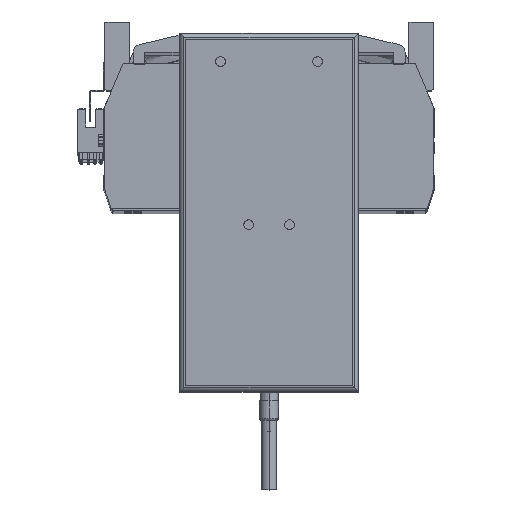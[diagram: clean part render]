
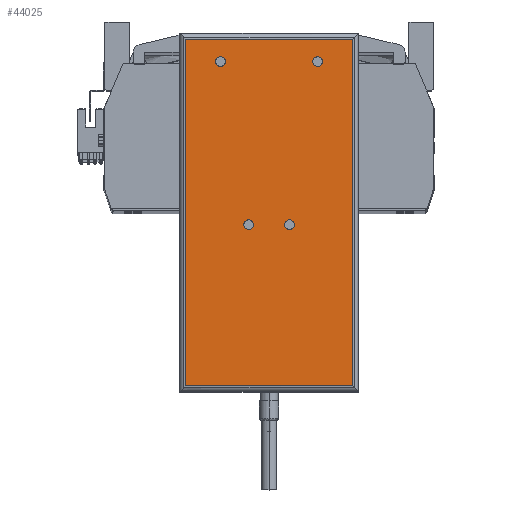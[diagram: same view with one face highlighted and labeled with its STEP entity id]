
A CAD part, top view. The second image highlights one B-rep face of the part: STEP entity #44025.
In plain terms, the highlighted planar face has unit normal (0, 0, 1) as drawn and (0, 0, -1) by its records, which use the part's own axes.
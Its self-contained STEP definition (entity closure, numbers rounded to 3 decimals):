
#40 = CIRCLE ( 'NONE', #38480, 2.5 ) ;
#255 = DIRECTION ( 'NONE',  ( 1., 0., 0. ) ) ;
#575 = EDGE_CURVE ( 'NONE', #43077, #51194, #7677, .T. ) ;
#1904 = FACE_BOUND ( 'NONE', #36241, .T. ) ;
#2032 = ORIENTED_EDGE ( 'NONE', *, *, #44075, .T. ) ;
#2505 = AXIS2_PLACEMENT_3D ( 'NONE', #12782, #40829, #16765 ) ;
#2663 = VECTOR ( 'NONE', #255, 1000. ) ;
#2954 = DIRECTION ( 'NONE',  ( -1., 0., 0. ) ) ;
#3177 = VECTOR ( 'NONE', #21864, 1000. ) ;
#3210 = DIRECTION ( 'NONE',  ( 0., 0., -1. ) ) ;
#3648 = VERTEX_POINT ( 'NONE', #48709 ) ;
#4576 = DIRECTION ( 'NONE',  ( 0., 0., -1. ) ) ;
#5337 = AXIS2_PLACEMENT_3D ( 'NONE', #22385, #50429, #33803 ) ;
#5673 = AXIS2_PLACEMENT_3D ( 'NONE', #44372, #4576, #32562 ) ;
#5804 = VERTEX_POINT ( 'NONE', #28014 ) ;
#6254 = CIRCLE ( 'NONE', #43341, 2.5 ) ;
#7130 = EDGE_CURVE ( 'NONE', #5804, #8420, #27706, .T. ) ;
#7257 = ORIENTED_EDGE ( 'NONE', *, *, #32262, .F. ) ;
#7677 = LINE ( 'NONE', #36488, #2663 ) ;
#8175 = CIRCLE ( 'NONE', #26310, 2.5 ) ;
#8420 = VERTEX_POINT ( 'NONE', #18188 ) ;
#9486 = VERTEX_POINT ( 'NONE', #21082 ) ;
#10051 = FACE_BOUND ( 'NONE', #40913, .T. ) ;
#10151 = AXIS2_PLACEMENT_3D ( 'NONE', #38902, #34836, #11022 ) ;
#10356 = EDGE_LOOP ( 'NONE', ( #22635, #30204 ) ) ;
#11022 = DIRECTION ( 'NONE',  ( -1., 0., 0. ) ) ;
#11439 = EDGE_CURVE ( 'NONE', #38278, #9486, #14255, .T. ) ;
#11762 = DIRECTION ( 'NONE',  ( 0., 0., -1. ) ) ;
#12663 = EDGE_CURVE ( 'NONE', #8420, #43077, #51738, .T. ) ;
#12717 = CARTESIAN_POINT ( 'NONE',  ( -25., 77.75, 0. ) ) ;
#12782 = CARTESIAN_POINT ( 'NONE',  ( 25., 77.75, 0. ) ) ;
#13066 = DIRECTION ( 'NONE',  ( -1., 0., 0. ) ) ;
#14255 = CIRCLE ( 'NONE', #5673, 2.5 ) ;
#14991 = DIRECTION ( 'NONE',  ( 0., 0., -1. ) ) ;
#15456 = EDGE_LOOP ( 'NONE', ( #2032, #47171, #37393, #19113 ) ) ;
#16297 = FACE_BOUND ( 'NONE', #46111, .T. ) ;
#16765 = DIRECTION ( 'NONE',  ( -1., 0., 0. ) ) ;
#16853 = VERTEX_POINT ( 'NONE', #26367 ) ;
#17049 = VECTOR ( 'NONE', #2954, 1000. ) ;
#17554 = FACE_BOUND ( 'NONE', #10356, .T. ) ;
#18188 = CARTESIAN_POINT ( 'NONE',  ( -43., -89.25, 0. ) ) ;
#18640 = CARTESIAN_POINT ( 'NONE',  ( -27.5, 77.75, 0. ) ) ;
#18991 = EDGE_CURVE ( 'NONE', #37488, #16853, #8175, .T. ) ;
#19113 = ORIENTED_EDGE ( 'NONE', *, *, #575, .T. ) ;
#20596 = DIRECTION ( 'NONE',  ( 0., 0., -1. ) ) ;
#21082 = CARTESIAN_POINT ( 'NONE',  ( 13., -6.25, 0. ) ) ;
#21864 = DIRECTION ( 'NONE',  ( 0., -1., 0. ) ) ;
#22385 = CARTESIAN_POINT ( 'NONE',  ( -46., -92.25, 0. ) ) ;
#22635 = ORIENTED_EDGE ( 'NONE', *, *, #11439, .F. ) ;
#23544 = CARTESIAN_POINT ( 'NONE',  ( -46., -89.25, 0. ) ) ;
#23890 = EDGE_CURVE ( 'NONE', #9486, #38278, #39319, .T. ) ;
#25567 = EDGE_CURVE ( 'NONE', #45864, #29047, #51031, .T. ) ;
#26067 = PLANE ( 'NONE',  #5337 ) ;
#26310 = AXIS2_PLACEMENT_3D ( 'NONE', #44653, #20596, #48681 ) ;
#26367 = CARTESIAN_POINT ( 'NONE',  ( -8., -6.25, 0. ) ) ;
#26463 = AXIS2_PLACEMENT_3D ( 'NONE', #39484, #11762, #39814 ) ;
#27325 = VECTOR ( 'NONE', #39048, 1000. ) ;
#27357 = CARTESIAN_POINT ( 'NONE',  ( -43., 89.25, 0. ) ) ;
#27706 = LINE ( 'NONE', #23544, #17049 ) ;
#28014 = CARTESIAN_POINT ( 'NONE',  ( 43., -89.25, 0. ) ) ;
#28204 = FACE_OUTER_BOUND ( 'NONE', #15456, .T. ) ;
#29047 = VERTEX_POINT ( 'NONE', #45300 ) ;
#29713 = CARTESIAN_POINT ( 'NONE',  ( -43., -92.25, 0. ) ) ;
#30204 = ORIENTED_EDGE ( 'NONE', *, *, #23890, .F. ) ;
#32262 = EDGE_CURVE ( 'NONE', #16853, #37488, #33172, .T. ) ;
#32562 = DIRECTION ( 'NONE',  ( -1., 0., 0. ) ) ;
#33172 = CIRCLE ( 'NONE', #26463, 2.5 ) ;
#33716 = VERTEX_POINT ( 'NONE', #48690 ) ;
#33803 = DIRECTION ( 'NONE',  ( 1., 0., 0. ) ) ;
#34836 = DIRECTION ( 'NONE',  ( 0., 0., -1. ) ) ;
#34948 = DIRECTION ( 'NONE',  ( -1., 0., 0. ) ) ;
#35066 = DIRECTION ( 'NONE',  ( -1., 0., 0. ) ) ;
#35227 = CARTESIAN_POINT ( 'NONE',  ( 8., -6.25, 0. ) ) ;
#36241 = EDGE_LOOP ( 'NONE', ( #38089, #7257 ) ) ;
#36488 = CARTESIAN_POINT ( 'NONE',  ( -46., 89.25, 0. ) ) ;
#36791 = ORIENTED_EDGE ( 'NONE', *, *, #25567, .F. ) ;
#37393 = ORIENTED_EDGE ( 'NONE', *, *, #12663, .T. ) ;
#37488 = VERTEX_POINT ( 'NONE', #48617 ) ;
#38089 = ORIENTED_EDGE ( 'NONE', *, *, #18991, .F. ) ;
#38278 = VERTEX_POINT ( 'NONE', #35227 ) ;
#38480 = AXIS2_PLACEMENT_3D ( 'NONE', #12717, #40765, #13066 ) ;
#38518 = EDGE_CURVE ( 'NONE', #33716, #3648, #48994, .T. ) ;
#38902 = CARTESIAN_POINT ( 'NONE',  ( -25., 77.75, 0. ) ) ;
#39048 = DIRECTION ( 'NONE',  ( 0., 1., 0. ) ) ;
#39319 = CIRCLE ( 'NONE', #41325, 2.5 ) ;
#39484 = CARTESIAN_POINT ( 'NONE',  ( -10.5, -6.25, 0. ) ) ;
#39814 = DIRECTION ( 'NONE',  ( -1., 0., 0. ) ) ;
#40262 = EDGE_CURVE ( 'NONE', #29047, #45864, #40, .T. ) ;
#40522 = ORIENTED_EDGE ( 'NONE', *, *, #40262, .F. ) ;
#40765 = DIRECTION ( 'NONE',  ( 0., 0., -1. ) ) ;
#40829 = DIRECTION ( 'NONE',  ( 0., 0., -1. ) ) ;
#40913 = EDGE_LOOP ( 'NONE', ( #36791, #40522 ) ) ;
#41325 = AXIS2_PLACEMENT_3D ( 'NONE', #47375, #3210, #35066 ) ;
#42361 = CARTESIAN_POINT ( 'NONE',  ( 25., 77.75, 0. ) ) ;
#43077 = VERTEX_POINT ( 'NONE', #27357 ) ;
#43341 = AXIS2_PLACEMENT_3D ( 'NONE', #42361, #14991, #34948 ) ;
#44025 = ADVANCED_FACE ( 'NONE', ( #28204, #1904, #17554, #10051, #16297 ), #26067, .F. ) ;
#44075 = EDGE_CURVE ( 'NONE', #51194, #5804, #45822, .T. ) ;
#44372 = CARTESIAN_POINT ( 'NONE',  ( 10.5, -6.25, 0. ) ) ;
#44653 = CARTESIAN_POINT ( 'NONE',  ( -10.5, -6.25, 0. ) ) ;
#44725 = EDGE_CURVE ( 'NONE', #3648, #33716, #6254, .T. ) ;
#45300 = CARTESIAN_POINT ( 'NONE',  ( -22.5, 77.75, 0. ) ) ;
#45790 = CARTESIAN_POINT ( 'NONE',  ( 43., 89.25, 0. ) ) ;
#45822 = LINE ( 'NONE', #45938, #3177 ) ;
#45864 = VERTEX_POINT ( 'NONE', #18640 ) ;
#45938 = CARTESIAN_POINT ( 'NONE',  ( 43., -92.25, 0. ) ) ;
#46111 = EDGE_LOOP ( 'NONE', ( #49576, #49969 ) ) ;
#47171 = ORIENTED_EDGE ( 'NONE', *, *, #7130, .T. ) ;
#47375 = CARTESIAN_POINT ( 'NONE',  ( 10.5, -6.25, 0. ) ) ;
#48617 = CARTESIAN_POINT ( 'NONE',  ( -13., -6.25, 0. ) ) ;
#48681 = DIRECTION ( 'NONE',  ( -1., 0., 0. ) ) ;
#48690 = CARTESIAN_POINT ( 'NONE',  ( 22.5, 77.75, 0. ) ) ;
#48709 = CARTESIAN_POINT ( 'NONE',  ( 27.5, 77.75, 0. ) ) ;
#48994 = CIRCLE ( 'NONE', #2505, 2.5 ) ;
#49576 = ORIENTED_EDGE ( 'NONE', *, *, #38518, .F. ) ;
#49969 = ORIENTED_EDGE ( 'NONE', *, *, #44725, .F. ) ;
#50429 = DIRECTION ( 'NONE',  ( 0., 0., 1. ) ) ;
#51031 = CIRCLE ( 'NONE', #10151, 2.5 ) ;
#51194 = VERTEX_POINT ( 'NONE', #45790 ) ;
#51738 = LINE ( 'NONE', #29713, #27325 ) ;
